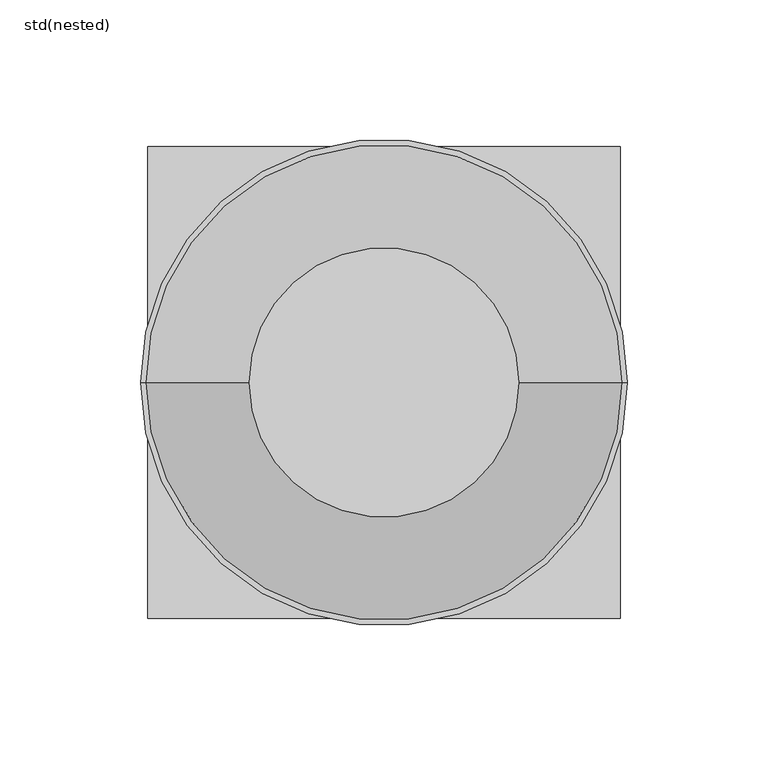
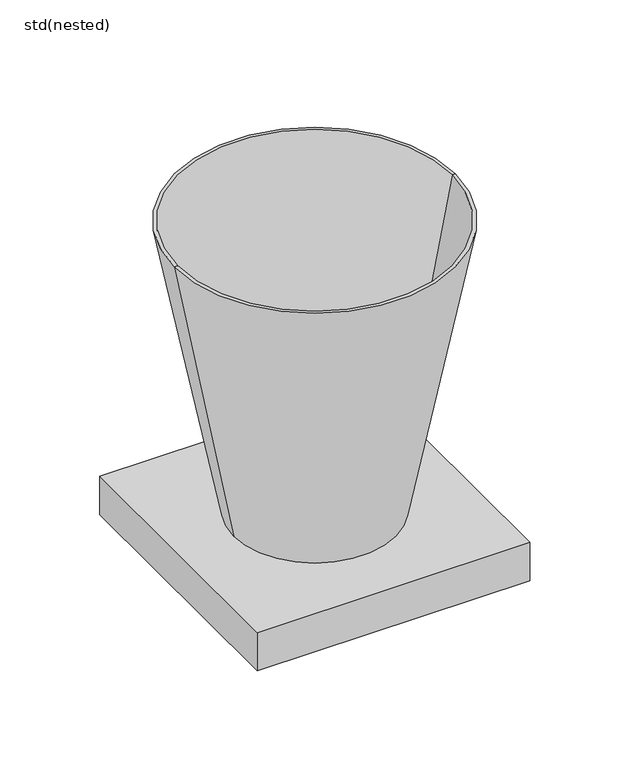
"""IFC4 building model written with IfcOpenShell, lengths in millimetres: sanitary terminal geometry, ZZZ_do not use_PF_ST_UN_cone H200_ACO : std(nested)."""

from ifc_helpers import new_model, si_unit, frame, origin, place, context, project, spatial, polyline, circle_curve, source, transform, mapped, element, save
from ifc_brep_helpers import plane_surface, revolved_surface, advanced_brep


def std_nested_bea26d9d(model_context):
    return source(origin(), model_context, "Body", "AdvancedBrep", [
        advanced_brep(
        [(84.0, 84.0, 25.0), (-84.0, 84.0, 25.0), (-84.0, -84.0, 25.0), (84.0, -84.0, 25.0), (-50.0, 0.0, 25.0), (50.0, 0.0, 25.0), (47.9625666, 0.0, 25.0), (-47.9625666, 0.0, 25.0), (84.0, 84.0, 0.0), (84.0, -84.0, 0.0), (-84.0, -84.0, 0.0), (-84.0, 84.0, 0.0), (84.5691242, 0.0, 213.3244131), (-84.5691242, 0.0, 213.3244131), (86.6065576, 0.0, 213.3244131), (-86.6065576, 0.0, 213.3244131)],
        [
            (0, 1),
            (1, 2),
            (2, 3),
            (3, 0),
            (4, 5, circle_curve(frame((0.0, 0.0, 25.0), z_axis=(0.0, 0.0, -1.0), x_axis=(-1.0, 0.0, 0.0)), 50.0)),
            (5, 4, circle_curve(frame((0.0, 0.0, 25.0), z_axis=(0.0, 0.0, -1.0), x_axis=(-1.0, 0.0, 0.0)), 50.0)),
            (6, 7, circle_curve(frame((0.0, 0.0, 25.0), z_axis=(0.0, 0.0, 1.0), x_axis=(-1.0, 0.0, 0.0)), 47.9625666)),
            (7, 6, circle_curve(frame((0.0, 0.0, 25.0), z_axis=(0.0, 0.0, 1.0), x_axis=(-1.0, 0.0, 0.0)), 47.9625666)),
            (8, 9),
            (9, 10),
            (10, 11),
            (11, 8),
            (0, 8),
            (11, 1),
            (10, 2),
            (9, 3),
            (12, 13, circle_curve(frame((0.0, 0.0, 213.3244131), z_axis=(0.0, 0.0, 1.0), x_axis=(-1.0, 0.0, 0.0)), 84.5691242)),
            (13, 7),
            (6, 12),
            (13, 12, circle_curve(frame((0.0, 0.0, 213.3244131), z_axis=(0.0, 0.0, 1.0), x_axis=(-1.0, 0.0, 0.0)), 84.5691242)),
            (12, 14),
            (14, 15, circle_curve(frame((0.0, 0.0, 213.3244131), z_axis=(0.0, 0.0, 1.0), x_axis=(-1.0, 0.0, 0.0)), 86.6065576)),
            (15, 13),
            (15, 14, circle_curve(frame((0.0, 0.0, 213.3244131), z_axis=(0.0, 0.0, 1.0), x_axis=(-1.0, 0.0, 0.0)), 86.6065576)),
            (14, 5),
            (4, 15),
        ],
        [
            plane_surface(frame((-84.0, 84.0, 25.0), z_axis=(0.0, 0.0, 1.0), x_axis=(-1.0, 0.0, 0.0))),
            plane_surface(frame((-84.0, 84.0, 0.0), z_axis=(0.0, 0.0, -1.0), x_axis=(1.0, 0.0, 0.0))),
            plane_surface(frame((84.0, 84.0, 25.0), z_axis=(0.0, 1.0, 0.0), x_axis=(0.0, 0.0, -1.0))),
            plane_surface(frame((-84.0, 84.0, 25.0), z_axis=(-1.0, 0.0, 0.0), x_axis=(0.0, 0.0, -1.0))),
            plane_surface(frame((-84.0, -84.0, 25.0), z_axis=(0.0, -1.0, 0.0), x_axis=(0.0, 0.0, -1.0))),
            plane_surface(frame((84.0, -84.0, 25.0), z_axis=(1.0, 0.0, 0.0), x_axis=(0.0, 0.0, -1.0))),
            revolved_surface(polyline([(-47.9625666, 0.0, 25.0), (-84.5691242, 0.0, 213.3244131)]), (0.0, 0.0, 347.5757708), (0.0, 0.0, -1.0)),
            plane_surface(frame((0.0, 0.0, 213.3244131), z_axis=(0.0, 0.0, 1.0), x_axis=(-1.0, 0.0, 0.0))),
            revolved_surface(polyline([(-86.6065576, 0.0, 213.3244131), (-50.0, 0.0, 25.0)]), (0.0, 0.0, 347.5757708), (0.0, 0.0, -1.0)),
        ],
        [
            (0, [[1, 2, 3, 4], [5, 6]]),
            (0, [[7, 8]]),
            (1, [[9, 10, 11, 12]]),
            (2, [[-1, 13, -12, 14]]),
            (3, [[-2, -14, -11, 15]]),
            (4, [[-3, -15, -10, 16]]),
            (5, [[-4, -16, -9, -13]]),
            (6, [[17, 18, -7, 19]]),
            (6, [[-18, 20, -19, -8]]),
            (7, [[-17, 21, 22, 23]]),
            (7, [[-20, -23, 24, -21]]),
            (8, [[-22, 25, -5, 26]]),
            (8, [[-24, -26, -6, -25]]),
        ],
    ),
    ])


if __name__ == "__main__":
    model = new_model("IFC4")
    model_context = context("Model", 3, world=origin())
    ifc_project = project(units=[si_unit("LENGTHUNIT", "METRE", prefix="MILLI")], contexts=[model_context])
    site = spatial("IfcSite", under=ifc_project)
    building = spatial("IfcBuilding", under=site)
    placement = place(None, origin())
    std_nested_shape = std_nested_bea26d9d(model_context)
    element("IfcSanitaryTerminal", 1, ObjectType="ZZZ_do not use_PF_ST_UN_cone H200_ACO : std(nested)", at=placement, inside=building, context=model_context, shape_type="MappedRepresentation", body=[
        mapped(std_nested_shape, transform((0.0, 0.0, 0.0), x_axis=(1.0, 0.0, 0.0), y_axis=(0.0, 1.0, 0.0), z_axis=(0.0, 0.0, 1.0))),
    ])
    save(model, "model.ifc")
